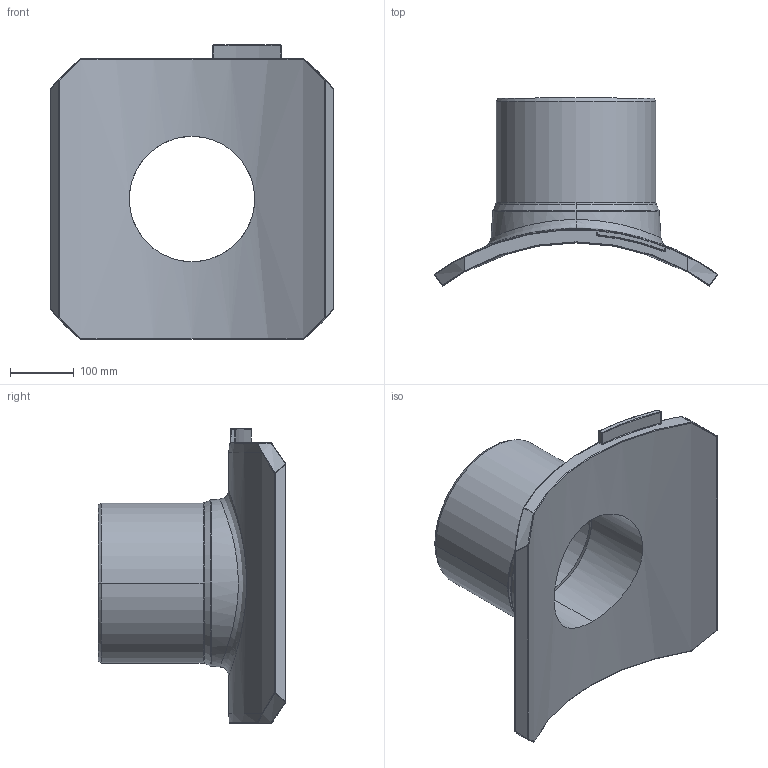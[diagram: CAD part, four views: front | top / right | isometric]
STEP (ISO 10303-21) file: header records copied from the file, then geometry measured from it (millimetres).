
FILE_DESCRIPTION((''),'2;1');
FILE_NAME('SA-UNI_D710_250_01','2024-07-01T11:30:42',('mikulicp'),(''),'CREO PARAMETRIC BY PTC INC, 2022124','CREO PARAMETRIC BY PTC INC, 2022124','');
FILE_SCHEMA(('AP242_MANAGED_MODEL_BASED_3D_ENGINEERING_MIM_LF { 1 0 10303 442 1 1 4 }'));
Length unit declared in the file: millimetre
Products named in the file (2): SA-UNI_D710_250_01; PE100
Bounding box: 442.29 x 293.37 x 460 mm (x, y, z)
Volume: 7618372.5 mm3; surface area: 680451.5 mm2
Topology: 1 solids, 1 shells, 239 faces, 575 edges, 354 vertices
Faces by surface type: bspline 74, plane 66, cylinder 49, sphere 22, torus 16, cone 12
Entity records: 14918 total; most frequent: CARTESIAN_POINT 6850, ORIENTED_EDGE 1150, DIRECTION 884, PRESENTATION_STYLE_ASSIGNMENT 587, STYLED_ITEM 576, CURVE_STYLE 575, EDGE_CURVE 575, VERTEX_POINT 354
